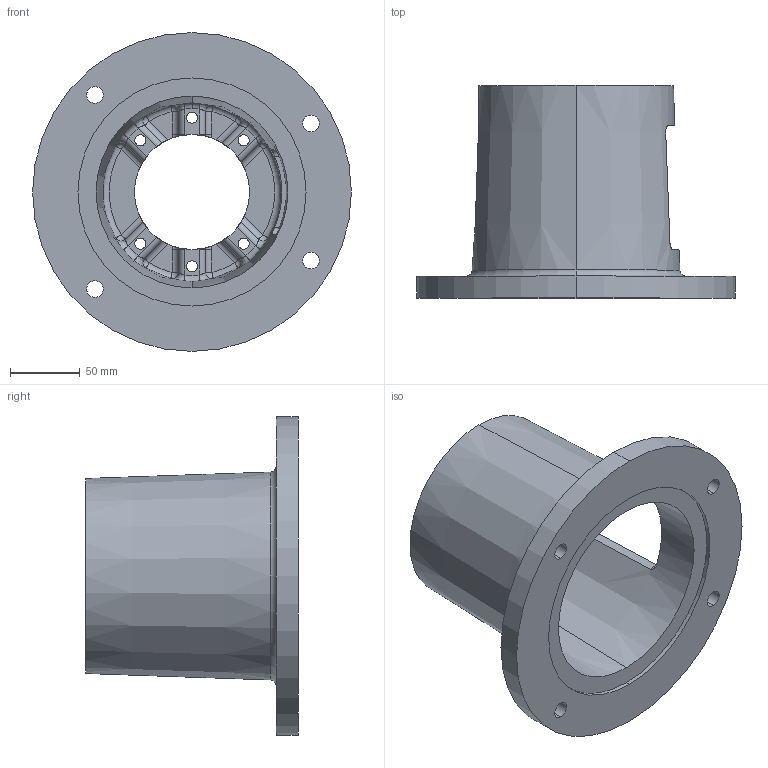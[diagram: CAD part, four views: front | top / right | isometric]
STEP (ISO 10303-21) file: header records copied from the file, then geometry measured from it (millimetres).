
FILE_DESCRIPTION (( 'STEP AP203' ), '1' );
FILE_NAME ('E644602A.STEP', '2014-11-03T18:02:09', ( '' ), ( '' ), 'SwSTEP 2.0', 'SolidWorks 2014', '' );
FILE_SCHEMA (( 'CONFIG_CONTROL_DESIGN' ));
Length unit declared in the file: inch
Products named in the file (1): E644602A
Bounding box: 228.6 x 152.4 x 228.6 mm (x, y, z)
Volume: 808899.6 mm3; surface area: 198517.2 mm2
Topology: 1 solids, 1 shells, 153 faces, 388 edges, 227 vertices
Faces by surface type: cylinder 58, plane 32, bspline 24, torus 23, sphere 12, cone 4
Entity records: 6533 total; most frequent: CARTESIAN_POINT 2915, ORIENTED_EDGE 752, DIRECTION 742, EDGE_CURVE 376, AXIS2_PLACEMENT_3D 320, VERTEX_POINT 227, CIRCLE 190, EDGE_LOOP 179
